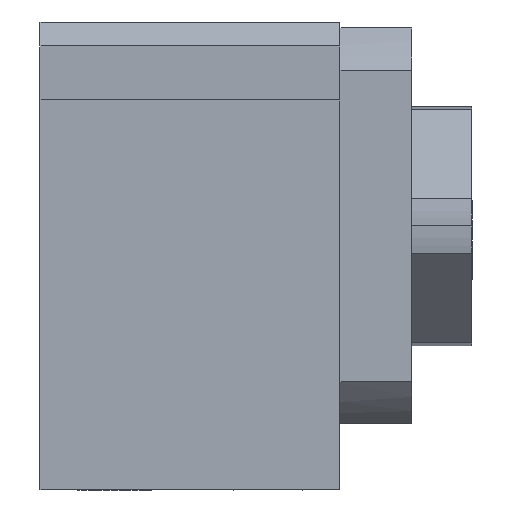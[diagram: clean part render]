
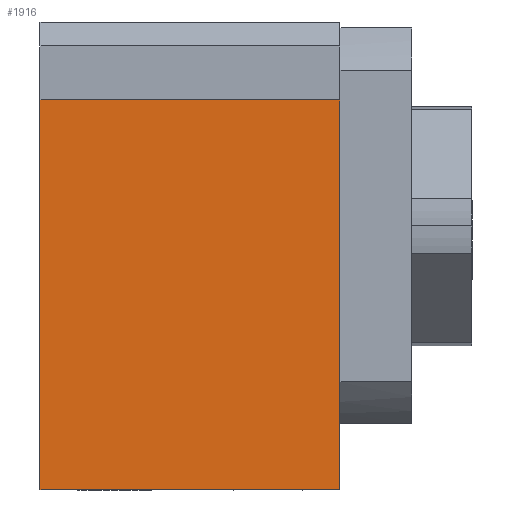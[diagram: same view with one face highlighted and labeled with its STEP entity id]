
A CAD part, front view. The second image highlights one B-rep face of the part: STEP entity #1916.
In plain terms, the highlighted planar face has unit normal (0, -1, 0).
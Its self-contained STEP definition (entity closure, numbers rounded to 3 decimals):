
#712=CARTESIAN_POINT('Vertex',(-25.,-30.,-22.)) ;
#728=CARTESIAN_POINT('Vertex',(0.,-30.,-22.)) ;
#731=CARTESIAN_POINT('Line Origine',(-12.5,-30.,-22.)) ;
#1251=CARTESIAN_POINT('Line Origine',(-25.,-30.,-5.75)) ;
#1255=CARTESIAN_POINT('Vertex',(-25.,-30.,10.5)) ;
#1501=CARTESIAN_POINT('Vertex',(0.,-30.,10.5)) ;
#1504=CARTESIAN_POINT('Line Origine',(0.,-30.,-5.75)) ;
#1900=CARTESIAN_POINT('Axis2P3D Location',(0.,-30.,-22.)) ;
#1905=CARTESIAN_POINT('Line Origine',(-12.5,-30.,10.5)) ;
#732=DIRECTION('Vector Direction',(-1.,0.,0.)) ;
#1252=DIRECTION('Vector Direction',(0.,0.,1.)) ;
#1505=DIRECTION('Vector Direction',(0.,0.,1.)) ;
#1901=DIRECTION('Axis2P3D Direction',(0.,-1.,0.)) ;
#1902=DIRECTION('Axis2P3D XDirection',(0.,0.,1.)) ;
#1906=DIRECTION('Vector Direction',(-1.,0.,0.)) ;
#1903=AXIS2_PLACEMENT_3D('Plane Axis2P3D',#1900,#1901,#1902) ;
#1911=ORIENTED_EDGE('',*,*,#1257,.T.) ;
#1912=ORIENTED_EDGE('',*,*,#735,.F.) ;
#1913=ORIENTED_EDGE('',*,*,#1508,.F.) ;
#1914=ORIENTED_EDGE('',*,*,#1909,.T.) ;
#733=VECTOR('Line Direction',#732,1.) ;
#1253=VECTOR('Line Direction',#1252,1.) ;
#1506=VECTOR('Line Direction',#1505,1.) ;
#1907=VECTOR('Line Direction',#1906,1.) ;
#1916=ADVANCED_FACE('BK10(H)',(#1915),#1904,.T.) ;
#735=EDGE_CURVE('',#729,#713,#734,.T.) ;
#1257=EDGE_CURVE('',#1256,#713,#1254,.F.) ;
#1508=EDGE_CURVE('',#1502,#729,#1507,.F.) ;
#1909=EDGE_CURVE('',#1502,#1256,#1908,.T.) ;
#1910=EDGE_LOOP('',(#1911,#1912,#1913,#1914)) ;
#1915=FACE_OUTER_BOUND('',#1910,.T.) ;
#734=LINE('Line',#731,#733) ;
#1254=LINE('Line',#1251,#1253) ;
#1507=LINE('Line',#1504,#1506) ;
#1908=LINE('Line',#1905,#1907) ;
#1904=PLANE('Plane',#1903) ;
#713=VERTEX_POINT('',#712) ;
#729=VERTEX_POINT('',#728) ;
#1256=VERTEX_POINT('',#1255) ;
#1502=VERTEX_POINT('',#1501) ;
